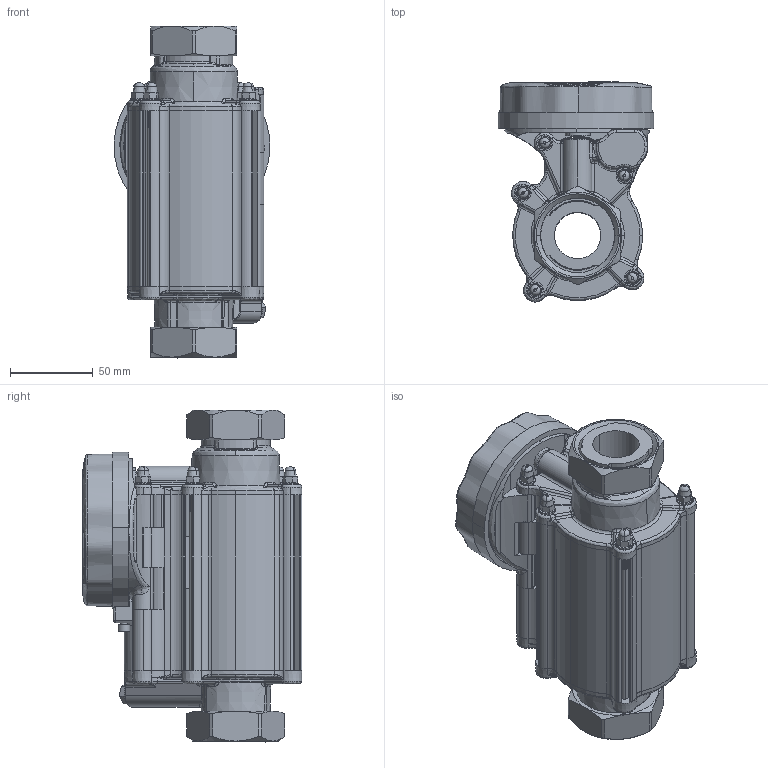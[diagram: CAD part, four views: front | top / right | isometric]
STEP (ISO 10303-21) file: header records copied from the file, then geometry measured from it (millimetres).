
FILE_DESCRIPTION (( 'STEP AP214' ), '1' );
FILE_NAME ('PAP-L040 3D.STEP', '2020-01-31T15:47:58', ( 'Windows User' ), ( 'Watts Water' ), 'SwSTEP 2.0', 'SolidWorks 2017', '' );
FILE_SCHEMA (( 'AUTOMOTIVE_DESIGN' ));
Length unit declared in the file: millimetre
Products named in the file (1): PAP-L040 3D
Bounding box: 93.93 x 132.47 x 200 mm (x, y, z)
Surface area: 144782.8 mm2 (no closed solid volume)
Topology: 0 solids, 58 shells, 1293 faces, 4036 edges, 2702 vertices
Faces by surface type: bspline 400, plane 300, cylinder 299, cone 266, torus 26, sphere 2
Entity records: 89005 total; most frequent: CARTESIAN_POINT 42399, ORIENTED_EDGE 6846, DIRECTION 6138, EDGE_CURVE 4001, VERTEX_POINT 2702, AXIS2_PLACEMENT_3D 2416, CIRCLE 1522, EDGE_LOOP 1389
